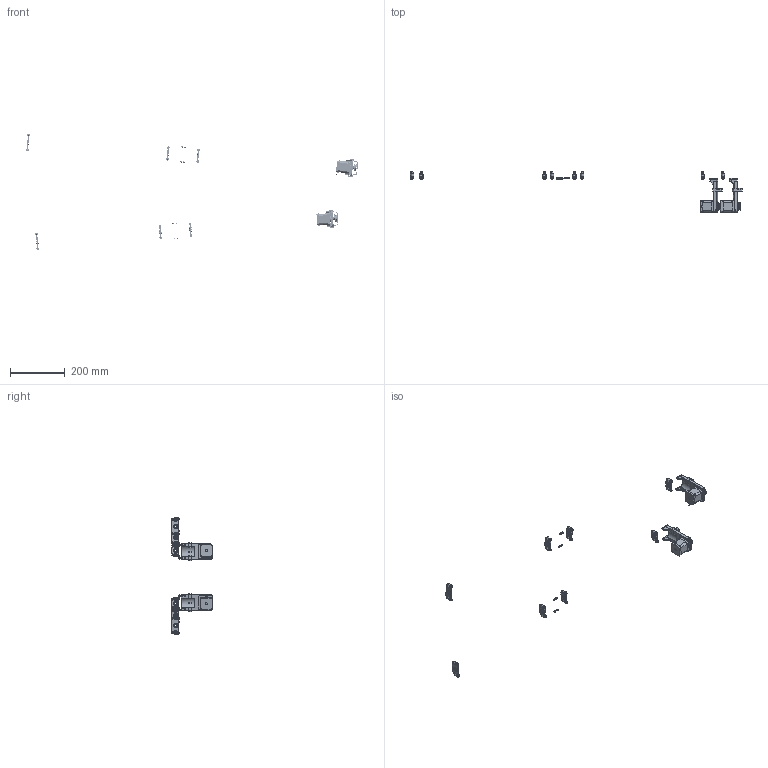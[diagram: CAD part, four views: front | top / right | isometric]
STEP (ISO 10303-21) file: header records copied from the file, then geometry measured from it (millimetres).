
FILE_DESCRIPTION((''),'2;1');
FILE_NAME('HBG_0000239140_ASM','2025-11-12T18:45:18',('Wyndorps'),(''),'CREO PARAMETRIC BY PTC INC, 2025323','CREO PARAMETRIC BY PTC INC, 2025323','');
FILE_SCHEMA(('CONFIG_CONTROL_DESIGN'));
Length unit declared in the file: millimetre
Products named in the file (15): 0000237240; 0000237227; 9000068001; 0000236838; 0000237228; 9000068005; 0000237153; 0000237152; 0000237151; 9000037323; 0000237226; 0000237222; 0000237166; 0000237052; HBG_0000239140_ASM
Assembly tree (112 placements, depth 2):
  HBG_0000239140_ASM
    0000237240  x8
    0000237227  x16
    9000068001  x16
    0000236838  x2
    0000237228  x16
    9000068005  x16
    0000237153  x2
    0000237152  x4
    0000237151  x2
    9000037323  x16
    0000237226  x8
    0000237222  x2
    0000237166  x2
    0000237052  x2
Bounding box: 1218.22 x 150 x 427.29 mm (x, y, z)
Volume: 324151.8 mm3; surface area: 133164.8 mm2
Topology: 112 solids, 152 shells, 6114 faces, 16436 edges, 10836 vertices
Faces by surface type: plane 1968, cylinder 1738, bspline 760, cone 696, extrusion 608, torus 344
Entity records: 38904 total; most frequent: CARTESIAN_POINT 12032, ORIENTED_EDGE 5726, DIRECTION 5114, EDGE_CURVE 2867, VERTEX_POINT 1899, AXIS2_PLACEMENT_3D 1849, VECTOR 1416, LINE 1340
